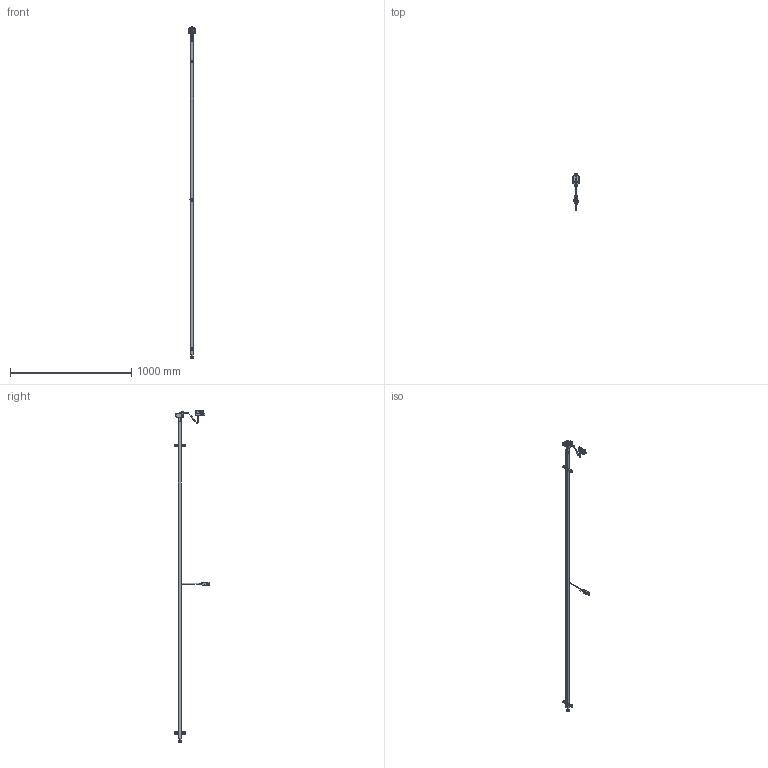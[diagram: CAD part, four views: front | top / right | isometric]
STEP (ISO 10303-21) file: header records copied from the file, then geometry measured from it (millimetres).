
FILE_DESCRIPTION (( 'STEP AP214' ), '1' );
FILE_NAME ('1001891.STEP', '2025-09-17T12:18:08', ( '' ), ( '' ), 'SwSTEP 2.0', 'SolidWorks 2025', '' );
FILE_SCHEMA (( 'AUTOMOTIVE_DESIGN' ));
Length unit declared in the file: millimetre
Products named in the file (1): 1001891
Bounding box: 54.9 x 296.6 x 2742.25 mm (x, y, z)
Volume: 1894165.7 mm3; surface area: 386856.6 mm2
Topology: 20 solids, 20 shells, 2586 faces, 7022 edges, 4593 vertices
Faces by surface type: plane 1997, cylinder 296, bspline 122, cone 91, torus 80
Entity records: 84003 total; most frequent: CARTESIAN_POINT 18721, ORIENTED_EDGE 14044, DIRECTION 12488, EDGE_CURVE 7022, LINE 5762, VECTOR 5762, VERTEX_POINT 4593, AXIS2_PLACEMENT_3D 3363
